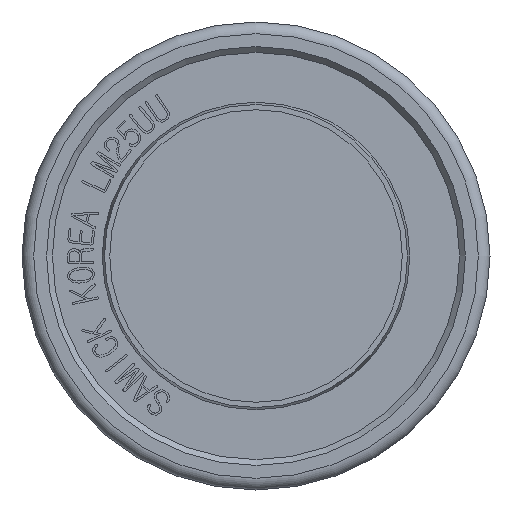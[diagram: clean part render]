
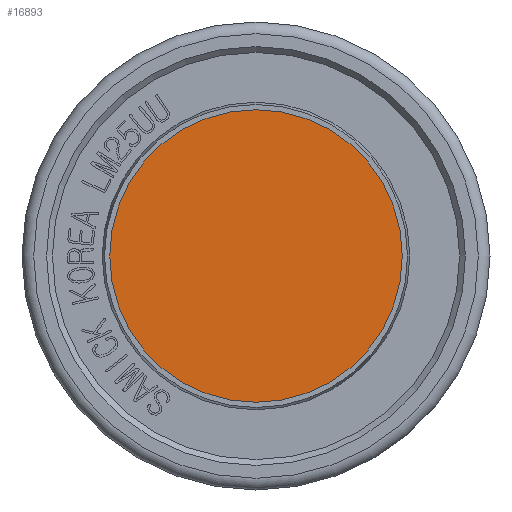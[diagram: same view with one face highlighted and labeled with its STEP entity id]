
A CAD part, front view. The second image highlights one B-rep face of the part: STEP entity #16893.
In plain terms, the highlighted planar face has unit normal (0, -1, 0).
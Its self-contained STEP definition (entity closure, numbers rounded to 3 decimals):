
#41=CIRCLE('',#17172,12.5);
#355=PLANE('',#17174);
#1201=FACE_OUTER_BOUND('',#2104,.T.);
#2104=EDGE_LOOP('',(#14488));
#7272=VERTEX_POINT('',#29321);
#9695=EDGE_CURVE('',#7272,#7272,#41,.T.);
#14488=ORIENTED_EDGE('',*,*,#9695,.F.);
#16893=ADVANCED_FACE('',(#1201),#355,.T.);
#17172=AXIS2_PLACEMENT_3D('',#29323,#18857,#18858);
#17174=AXIS2_PLACEMENT_3D('',#29325,#18861,#18862);
#18857=DIRECTION('center_axis',(0.,1.,0.));
#18858=DIRECTION('ref_axis',(1.,0.,0.));
#18861=DIRECTION('center_axis',(0.,-1.,0.));
#18862=DIRECTION('ref_axis',(0.,0.,-1.));
#29321=CARTESIAN_POINT('',(-12.5,-54.,0.));
#29323=CARTESIAN_POINT('Origin',(0.,-54.,0.));
#29325=CARTESIAN_POINT('Origin',(0.,-54.,0.));
